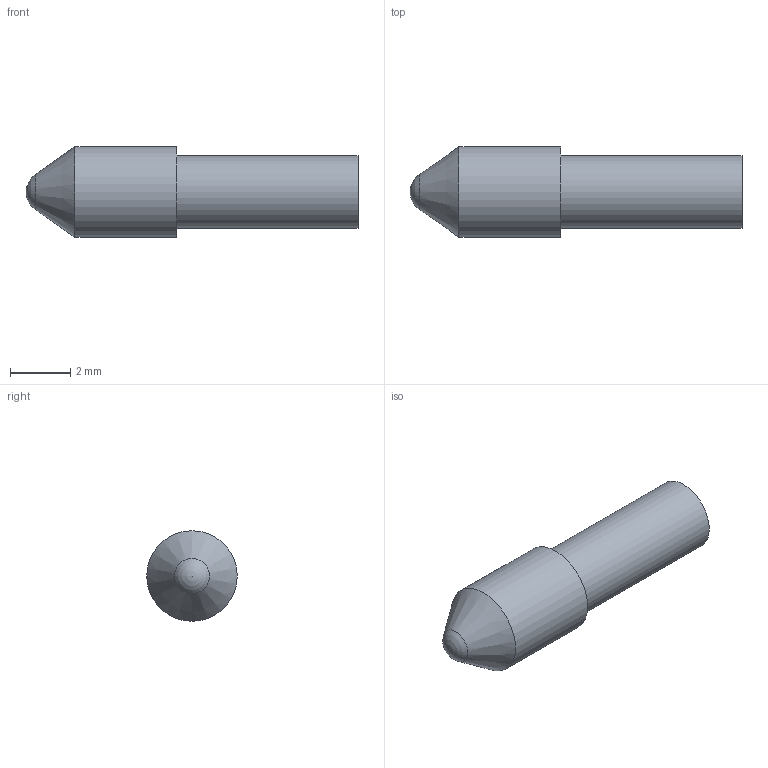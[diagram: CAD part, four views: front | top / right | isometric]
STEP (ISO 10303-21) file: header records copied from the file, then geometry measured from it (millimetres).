
FILE_DESCRIPTION( ( 'STEP AP203' ), '1' );
FILE_NAME( 'C:/Temp/Ganter_Step_05_03_2020/data/3_1/gn610/Spring loaded shell GN 610-3-11-K.stp', '2020-03-12T08:33:19', ( 'License CC BY-ND 4.0' ), ( 'CADENAS' ), ' ', 'PARTsolutions', ' ' );
FILE_SCHEMA( ( 'CONFIG_CONTROL_DESIGN' ) );
Length unit declared in the file: millimetre
Products named in the file (1): _Spring loaded shell GN 610-3-11-K
Bounding box: 11 x 3 x 3 mm (x, y, z)
Volume: 33.1 mm3; surface area: 137.4 mm2
Topology: 1 solids, 1 shells, 8 faces, 14 edges, 9 vertices
Faces by surface type: cylinder 3, plane 3, cone 1, sphere 1
Full cylindrical faces by diameter (mm): 2.2 x1, 2.4 x1, 3 x1
Entity records: 202 total; most frequent: DIRECTION 32, CARTESIAN_POINT 24, AXIS2_PLACEMENT_3D 16, EDGE_LOOP 14, ORIENTED_EDGE 14, FACE_OUTER_BOUND 11, ADVANCED_FACE 8, VERTEX_POINT 8
